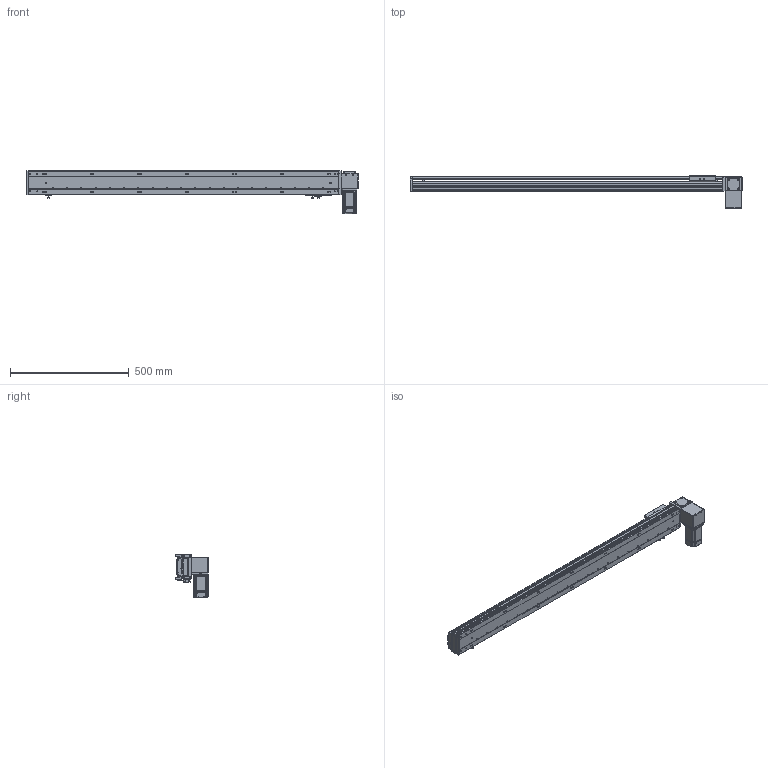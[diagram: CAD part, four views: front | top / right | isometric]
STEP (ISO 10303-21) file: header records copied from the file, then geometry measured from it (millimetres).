
FILE_DESCRIPTION (( 'STEP AP203' ), '1' );
FILE_NAME ('RY100-T-300-DL.SLDASM_1100.step', '2024-04-24T01:11:38', ( '盈信电脑' ), ( '东莞市道滘镇水果街19号' ), 'SwSTEP 2.0', 'SolidWorks 2016', '' );
FILE_SCHEMA (( 'CONFIG_CONTROL_DESIGN' ));
Length unit declared in the file: millimetre
Products named in the file (16): RY80-T肮祭謫狟殏俋欶; RY100-T翋肮祭謫裔啣; RY100-T-300-RK倰第奻裔_1100; 1; RY100-T翋肮祭謫裔啣2; RY100俋离覜茼え; RY100-T肮祭謫臏賑輸; RY100-T左右折电机安装板; RY100-T肮祭謫翋盓傅釱; RY100-T粣創揤踡裔; RY100-T翋肮祭謫粣; RY100綴裔啣; 滅袉蝶18-10; 覜茼ん672; RY100-T-300-RK倰第菁釱_1100; RY100-T-300-DL.SLDASM_1100
Assembly tree (18 placements, depth 2):
  RY100-T-300-DL.SLDASM_1100
    RY100-T-300-RK倰第菁釱_1100
    RY100-T-300-RK倰第奻裔_1100
    RY100-T肮祭謫臏賑輸
    RY100綴裔啣
    覜茼ん672  x3
    RY100俋离覜茼え
    RY100-T翋肮祭謫粣
    RY100-T肮祭謫翋盓傅釱
    滅袉蝶18-10  x2
    RY100-T翋肮祭謫裔啣
    1
    RY100-T左右折电机安装板
    RY100-T粣創揤踡裔
    RY100-T翋肮祭謫裔啣2
    RY80-T肮祭謫狟殏俋欶
Bounding box: 1400 x 135.5 x 182.5 mm (x, y, z)
Volume: 2803329.9 mm3; surface area: 1155996.6 mm2
Topology: 18 solids, 18 shells, 2229 faces, 6173 edges, 4007 vertices
Faces by surface type: plane 1211, cylinder 801, cone 139, bspline 78
Entity records: 71690 total; most frequent: CARTESIAN_POINT 17192, ORIENTED_EDGE 11178, DIRECTION 10685, EDGE_CURVE 5589, VERTEX_POINT 3675, LINE 3615, VECTOR 3615, AXIS2_PLACEMENT_3D 3535
